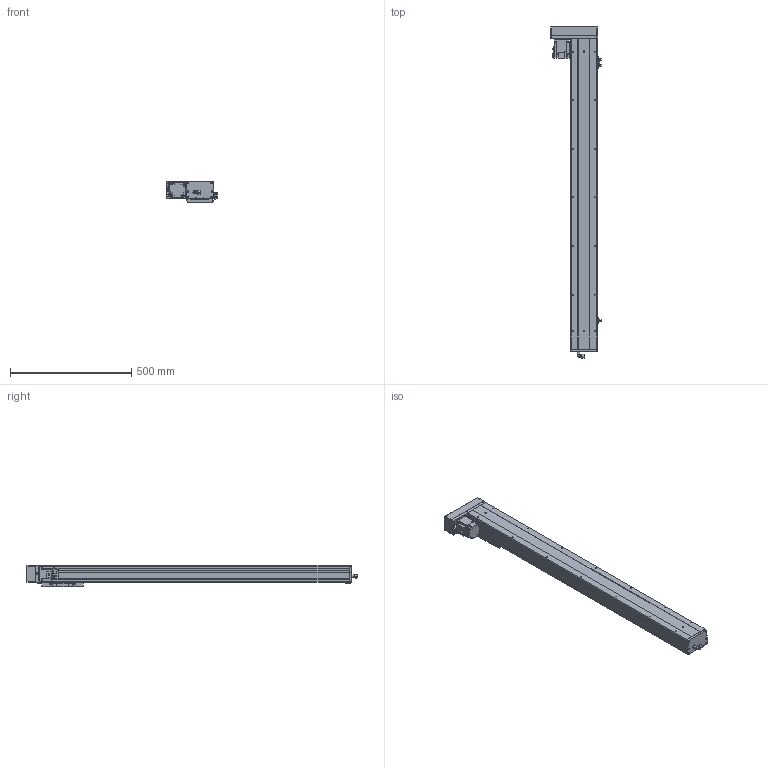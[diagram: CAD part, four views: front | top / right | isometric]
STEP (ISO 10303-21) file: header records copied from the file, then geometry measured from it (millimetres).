
FILE_DESCRIPTION (( 'STEP AP203' ), '1' );
FILE_NAME ('21.STEP', '2021-01-06T03:29:56', ( '' ), ( '' ), 'SwSTEP 2.0', 'SolidWorks 2016', '' );
FILE_SCHEMA (( 'CONFIG_CONTROL_DESIGN' ));
Length unit declared in the file: millimetre
Products named in the file (9): BCH11-BR-10; BCH11-BR-01; BCH11-BR-肮祭謫欶; BCH11-BR-04; BCH11-BM-M20; BCH11-BR-HZ-01; BCH11-BL-BR-BM-菁釱; BCH11-BR-02; 21
Assembly tree (11 placements, depth 2):
  21
    BCH11-BL-BR-BM-菁釱
    BCH11-BR-01
    BCH11-BR-02  x2
    BCH11-BR-04  x3
    BCH11-BR-肮祭謫欶
    BCH11-BR-HZ-01
    BCH11-BM-M20
    BCH11-BR-10
Bounding box: 206.2 x 1366.58 x 90 mm (x, y, z)
Volume: 3767483.6 mm3; surface area: 1200734.1 mm2
Topology: 25 solids, 25 shells, 1471 faces, 3689 edges, 2320 vertices
Faces by surface type: plane 920, cylinder 411, cone 88, bspline 30, sphere 20, torus 2
Entity records: 37324 total; most frequent: CARTESIAN_POINT 7176, DIRECTION 6115, ORIENTED_EDGE 5886, EDGE_CURVE 2943, LINE 2049, VECTOR 2049, AXIS2_PLACEMENT_3D 2033, VERTEX_POINT 1868
